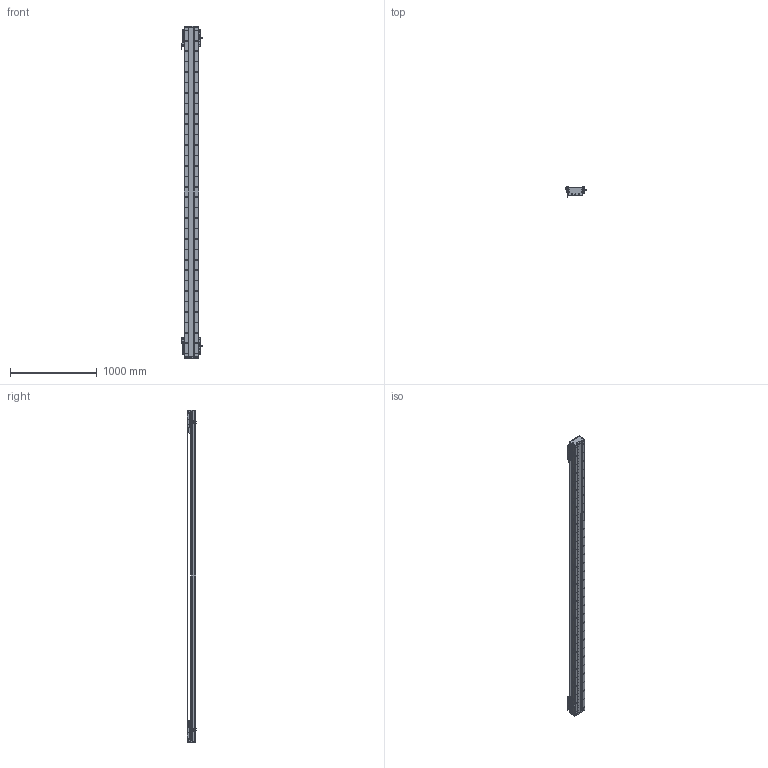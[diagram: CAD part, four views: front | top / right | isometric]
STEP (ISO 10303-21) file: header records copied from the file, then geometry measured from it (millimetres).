
FILE_DESCRIPTION (( 'STEP AP203' ), '1' );
FILE_NAME ('DA-C165-2-C2-T3320-C010-0.2 直线电机.STEP', '2023-05-11T08:35:37', ( '微软用户' ), ( '微软中国' ), 'SwSTEP 2.0', 'SolidWorks 2019', '' );
FILE_SCHEMA (( 'CONFIG_CONTROL_DESIGN' ));
Length unit declared in the file: millimetre
Products named in the file (22): 复件 六角薄螺母 M3^DA-C165-C2-T-C010-0.2-N 直线电机_GB_FASTENER_NUT_STNAB M3-C; 复件 DA165-GYP-00 光电感应片^DA-C165-C2-T-C010-0.2-N 直线电机; 葩璃 PM-Y45^DA-C165-C2-T-C010-0.2-N 眻盄萇儂; IU-CU165-L-00 菁釱_L3780; 复件 DA126-GYP-ZJ-00 中间光电感应片^DA-C165-C2-T-C010-0.2-N 直线电机; 复件 DA95-HXJ-00 缓冲橡胶^DA-C165-C2-T-C010-0.2-N 直线电机; 复件 DA165-GDLK-00 钢带拉块^复件 CU165钢带组件_DA-C165-C2-T-C010-0.2-N 直线电机; 复件 DA165-GD-1860-002-00 钢带盖板^复件 CU165钢带组件_DA-C165-C2-T-C010-0.2-N 直线电机; 复件 XD-U-02L 磁栅尺^DA-C165-C2-T-C010-0.2-N 直线电机_T; 葩璃 CKM01-W075-TRL^DA-C165-C2-T-C010-0.2-N 眻盄萇儂; 复件 66338-1000-006-00 光电感应块^DA-C165-C2-T-C010-0.2-N 直线电机; 复件 DMA-010-0.2 读数头^DA-C165-C2-T-C010-0.2-N 直线电机; 葩璃 DA95-GT-T-00^IU-CU165-L 菁釱絳寢_T; 葩璃 PM-T45^DA-C165-C2-T-C010-0.2-N 眻盄萇儂; 复件 CU165钢带组件^DA-C165-C2-T-C010-0.2-N 直线电机; 复件 DA165-GD-DG-H-00 端盖^复件 CU165钢带组件_DA-C165-C2-T-C010-0.2-N 直线电机; 复件 DKW-HXJ-JY-00 缓冲橡胶^DA-C165-C2-T-C010-0.2-N 直线电机; IU-CU165-L 菁釱絳寢; 复件 DA165-GDYK-00 钢带压块^复件 CU165钢带组件_DA-C165-C2-T-C010-0.2-N 直线电机; 珨极趙賑雄怢啣wf-C2; DA-C165-2-C2-T3320-C010-0.2 眻盄萇儂; 复件 CKM02-W075-C1C2-TP-3.0 一体电机-C2^DA-C165-C2-T-C010-0.2-N 直线电机
Assembly tree (43 placements, depth 3):
  DA-C165-2-C2-T3320-C010-0.2 眻盄萇儂
    IU-CU165-L 菁釱絳寢
      IU-CU165-L-00 菁釱_L3780
      葩璃 DA95-GT-T-00^IU-CU165-L 菁釱絳寢_T  x4
    复件 XD-U-02L 磁栅尺^DA-C165-C2-T-C010-0.2-N 直线电机_T
    葩璃 PM-T45^DA-C165-C2-T-C010-0.2-N 眻盄萇儂  x4
    葩璃 CKM01-W075-TRL^DA-C165-C2-T-C010-0.2-N 眻盄萇儂
    复件 CU165钢带组件^DA-C165-C2-T-C010-0.2-N 直线电机
      复件 DA165-GD-DG-H-00 端盖^复件 CU165钢带组件_DA-C165-C2-T-C010-0.2-N 直线电机  x2
      复件 DA165-GDYK-00 钢带压块^复件 CU165钢带组件_DA-C165-C2-T-C010-0.2-N 直线电机  x2
      复件 DA165-GD-1860-002-00 钢带盖板^复件 CU165钢带组件_DA-C165-C2-T-C010-0.2-N 直线电机
      复件 DA165-GDLK-00 钢带拉块^复件 CU165钢带组件_DA-C165-C2-T-C010-0.2-N 直线电机  x2
    复件 DA95-HXJ-00 缓冲橡胶^DA-C165-C2-T-C010-0.2-N 直线电机  x4
    复件 CKM02-W075-C1C2-TP-3.0 一体电机-C2^DA-C165-C2-T-C010-0.2-N 直线电机  x2
    复件 DMA-010-0.2 读数头^DA-C165-C2-T-C010-0.2-N 直线电机  x2
    复件 DA165-GYP-00 光电感应片^DA-C165-C2-T-C010-0.2-N 直线电机  x2
    复件 66338-1000-006-00 光电感应块^DA-C165-C2-T-C010-0.2-N 直线电机
    葩璃 PM-Y45^DA-C165-C2-T-C010-0.2-N 眻盄萇儂
    复件 DA126-GYP-ZJ-00 中间光电感应片^DA-C165-C2-T-C010-0.2-N 直线电机
    复件 DKW-HXJ-JY-00 缓冲橡胶^DA-C165-C2-T-C010-0.2-N 直线电机  x2
    复件 六角薄螺母 M3^DA-C165-C2-T-C010-0.2-N 直线电机_GB_FASTENER_NUT_STNAB M3-C  x6
    珨极趙賑雄怢啣wf-C2  x2
Bounding box: 247.2 x 111.45 x 3820 mm (x, y, z)
Volume: 21877792.3 mm3; surface area: 6518035.5 mm2
Topology: 117 solids, 117 shells, 6215 faces, 18048 edges, 11480 vertices
Faces by surface type: cylinder 3588, plane 1835, cone 704, torus 80, sphere 8
Entity records: 166720 total; most frequent: CARTESIAN_POINT 47455, ORIENTED_EDGE 25280, DIRECTION 23638, EDGE_CURVE 12640, AXIS2_PLACEMENT_3D 9042, VERTEX_POINT 8297, EDGE_LOOP 5673, LINE 5554
